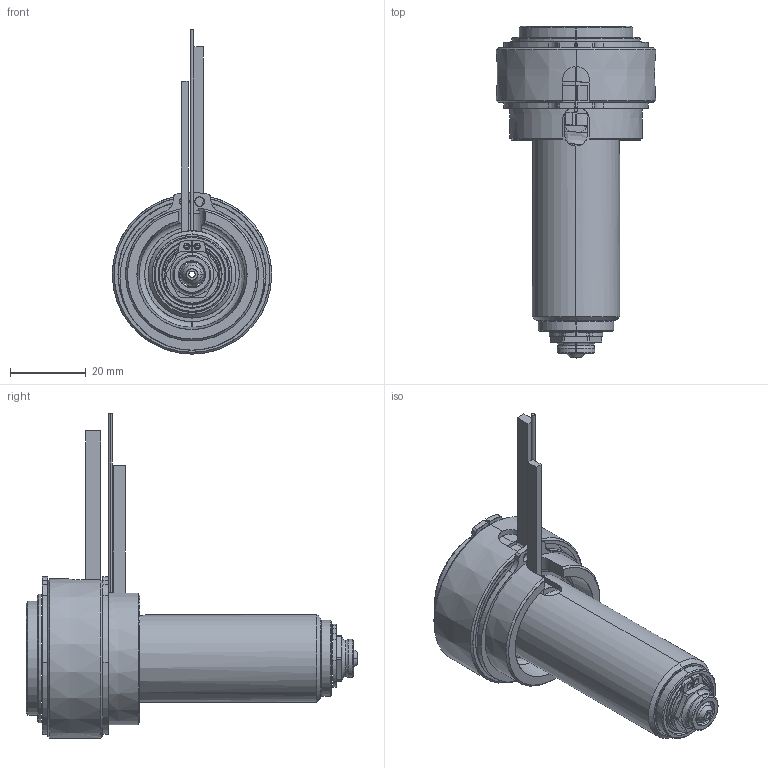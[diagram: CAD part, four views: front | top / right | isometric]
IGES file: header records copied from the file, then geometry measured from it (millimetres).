
Start section: SolidWorks IGES file using analytic representation for surfaces
Global section: file name: C:\Documents and Settings\ws-20\Desktop\TEM\UGER3551-M-A-1 [Øb-1.70  ØC-7.0].IGS; native system: SolidWorks 2012; preprocessor: SolidWorks 2012; author: ws-20; date: 120410.100224; units: millimetre
Bounding box: 42 x 87.4 x 85.4 mm (x, y, z)
Surface area: 30577.1 mm2 (no closed solid volume)
Topology: 0 solids, 0 shells, 205 faces, 3378 edges, 3378 vertices
Faces by surface type: revolution 132, bspline 73
